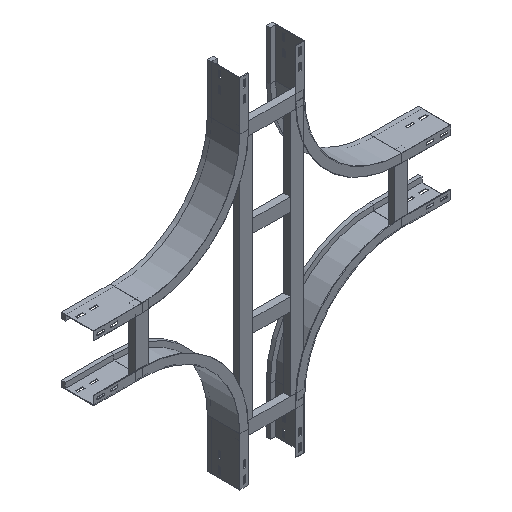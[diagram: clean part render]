
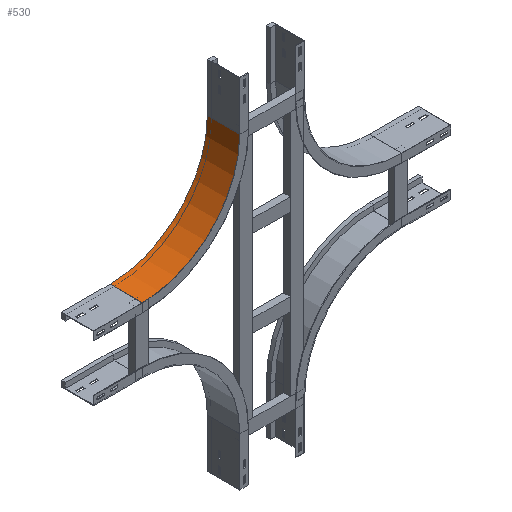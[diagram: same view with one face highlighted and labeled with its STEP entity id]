
A CAD part, isometric view. The second image highlights one B-rep face of the part: STEP entity #530.
In plain terms, the highlighted cylindrical face has radius 300 mm (diameter 600 mm), a partial arc.
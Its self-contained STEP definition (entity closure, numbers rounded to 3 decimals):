
#117 = VECTOR ( 'NONE', #1780, 1000. ) ;
#331 = CARTESIAN_POINT ( 'NONE',  ( 300., 0., -450. ) ) ;
#378 = CARTESIAN_POINT ( 'NONE',  ( 300., 100., -150. ) ) ;
#412 = CARTESIAN_POINT ( 'NONE',  ( 0., 100., -150. ) ) ;
#487 = LINE ( 'NONE', #331, #1553 ) ;
#492 = VERTEX_POINT ( 'NONE', #2412 ) ;
#530 = ADVANCED_FACE ( 'NONE', ( #2429 ), #1693, .F. ) ;
#555 = VERTEX_POINT ( 'NONE', #1480 ) ;
#655 = LINE ( 'NONE', #1216, #117 ) ;
#675 = ORIENTED_EDGE ( 'NONE', *, *, #814, .T. ) ;
#794 = AXIS2_PLACEMENT_3D ( 'NONE', #378, #821, #1556 ) ;
#814 = EDGE_CURVE ( 'NONE', #492, #555, #1317, .T. ) ;
#821 = DIRECTION ( 'NONE',  ( 0., -1., 0. ) ) ;
#861 = EDGE_CURVE ( 'NONE', #555, #1452, #487, .T. ) ;
#951 = EDGE_LOOP ( 'NONE', ( #1095, #1267, #675, #1393 ) ) ;
#1095 = ORIENTED_EDGE ( 'NONE', *, *, #1898, .F. ) ;
#1104 = DIRECTION ( 'NONE',  ( 0., 1., 0. ) ) ;
#1112 = CIRCLE ( 'NONE', #794, 300. ) ;
#1118 = AXIS2_PLACEMENT_3D ( 'NONE', #1884, #2448, #1701 ) ;
#1216 = CARTESIAN_POINT ( 'NONE',  ( 0., 0., -150. ) ) ;
#1267 = ORIENTED_EDGE ( 'NONE', *, *, #2342, .F. ) ;
#1317 = CIRCLE ( 'NONE', #1595, 300. ) ;
#1393 = ORIENTED_EDGE ( 'NONE', *, *, #861, .T. ) ;
#1412 = DIRECTION ( 'NONE',  ( 0., -1., 0. ) ) ;
#1452 = VERTEX_POINT ( 'NONE', #2083 ) ;
#1480 = CARTESIAN_POINT ( 'NONE',  ( 300., 0., -450. ) ) ;
#1553 = VECTOR ( 'NONE', #1104, 1000. ) ;
#1556 = DIRECTION ( 'NONE',  ( -1., 0., 0. ) ) ;
#1595 = AXIS2_PLACEMENT_3D ( 'NONE', #1812, #1412, #2175 ) ;
#1693 = CYLINDRICAL_SURFACE ( 'NONE', #1118, 300. ) ;
#1701 = DIRECTION ( 'NONE',  ( 0., 0., -1. ) ) ;
#1780 = DIRECTION ( 'NONE',  ( 0., 1., 0. ) ) ;
#1812 = CARTESIAN_POINT ( 'NONE',  ( 300., 0., -150. ) ) ;
#1884 = CARTESIAN_POINT ( 'NONE',  ( 300., 0., -150. ) ) ;
#1898 = EDGE_CURVE ( 'NONE', #2298, #1452, #1112, .T. ) ;
#2083 = CARTESIAN_POINT ( 'NONE',  ( 300., 100., -450. ) ) ;
#2175 = DIRECTION ( 'NONE',  ( -1., 0., 0. ) ) ;
#2298 = VERTEX_POINT ( 'NONE', #412 ) ;
#2342 = EDGE_CURVE ( 'NONE', #492, #2298, #655, .T. ) ;
#2412 = CARTESIAN_POINT ( 'NONE',  ( 0., 0., -150. ) ) ;
#2429 = FACE_OUTER_BOUND ( 'NONE', #951, .T. ) ;
#2448 = DIRECTION ( 'NONE',  ( 0., -1., 0. ) ) ;
